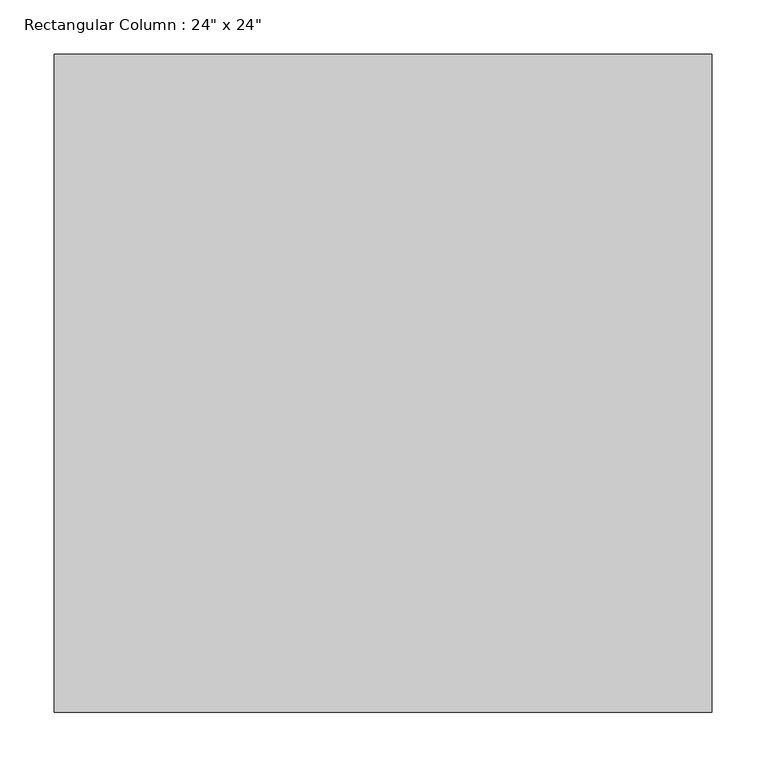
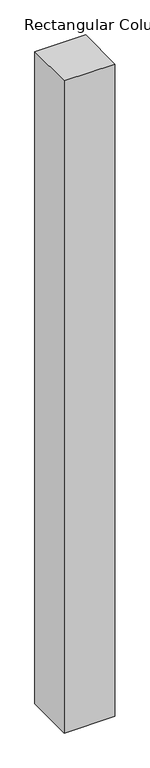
"""IFC4 building model written with IfcOpenShell, lengths in millimetres: column geometry."""

import ifcopenshell
import ifcopenshell.guid

model = None  # the IFC model being written
_history = None  # IfcOwnerHistory: only IFC2X3 demands one
_inside = {}  # id of a spatial element -> (the spatial element, [elements in it])
_under = {}  # id of a project, library or spatial element -> (it, [spatial elements below it])
_declared = {}  # id of a project -> (the project, [libraries it declares])
_typed = {}  # id of a type object -> (the type object, [elements of that type])
_made_of = {}  # id of a material, layer set ... -> (it, [elements and type objects made of it])


def new_model(schema):
    """Start an empty IFC model of exactly this schema.

    Asked for "IFC4X3", IfcOpenShell would pick the latest addendum, in which some entities
    have other attributes; the version numbers below select the first issue.
    IFC2X3 requires an IfcOwnerHistory on every rooted entity: one is made here for all.
    """
    global model, _history
    if schema == "IFC4X3":
        model = ifcopenshell.file(schema_version=(4, 3, 0, 0))
    else:
        model = ifcopenshell.file(schema=schema)
    _inside.clear()
    _under.clear()
    _declared.clear()
    _typed.clear()
    _made_of.clear()
    _history = None
    if model.schema == "IFC2X3":
        org = make("IfcOrganization", Name="unknown")
        user = make(
            "IfcPersonAndOrganization",
            ThePerson=make("IfcPerson", FamilyName="unknown"),
            TheOrganization=org,
        )
        app = make(
            "IfcApplication",
            ApplicationDeveloper=org,
            Version="unknown",
            ApplicationFullName="unknown",
            ApplicationIdentifier="unknown",
        )
        _history = make(
            "IfcOwnerHistory",
            OwningUser=user,
            OwningApplication=app,
            ChangeAction="ADDED",
            CreationDate=0,
        )
    return model


def make(cls, **values):
    """One entity of the class cls with the attributes given. An attribute that is None is left unset."""
    return model.create_entity(
        cls, **{name: value for name, value in values.items() if value is not None}
    )


def rooted(cls, **values):
    """An entity with a GlobalId (a new one), such as an element, a storey or a relation."""
    return make(cls, GlobalId=ifcopenshell.guid.new(), OwnerHistory=_history, **values)


def si_unit(unit_type, name, prefix=None):
    """IfcSIUnit, for example si_unit("LENGTHUNIT", "METRE", prefix="MILLI")."""
    return make("IfcSIUnit", UnitType=unit_type, Prefix=prefix, Name=name)


def assignment(units):
    """IfcUnitAssignment: the units of a project."""
    return None if units is None else make("IfcUnitAssignment", Units=units)


def point(xyz):
    """IfcCartesianPoint."""
    return None if xyz is None else make("IfcCartesianPoint", Coordinates=xyz)


def direction(xyz):
    """IfcDirection."""
    return None if xyz is None else make("IfcDirection", DirectionRatios=xyz)


def frame(location, z_axis=None, x_axis=None):
    """IfcAxis2Placement3D, a coordinate frame: its origin and axes. An axis left out is left unset."""
    return make(
        "IfcAxis2Placement3D",
        Location=point(location),
        Axis=direction(z_axis),
        RefDirection=direction(x_axis),
    )


def origin():
    """The frame at (0, 0, 0) with its axes left unset."""
    return frame((0.0, 0.0, 0.0))


def origin_with_axes():
    """The frame at (0, 0, 0) with the z axis (0, 0, 1) and the x axis (1, 0, 0) written out."""
    return frame((0.0, 0.0, 0.0), z_axis=(0.0, 0.0, 1.0), x_axis=(1.0, 0.0, 0.0))


def place(relative_to, where):
    """IfcLocalPlacement: puts the frame where relative to a parent placement (None: the world)."""
    return make(
        "IfcLocalPlacement", PlacementRelTo=relative_to, RelativePlacement=where
    )


def context(
    kind, dimensions, precision=None, world=None, true_north=None, identifier=None
):
    """IfcGeometricRepresentationContext, for example the 3D "Model" context."""
    return make(
        "IfcGeometricRepresentationContext",
        ContextIdentifier=identifier,
        ContextType=kind,
        CoordinateSpaceDimension=dimensions,
        Precision=precision,
        WorldCoordinateSystem=world,
        TrueNorth=true_north,
    )


def project(units=None, contexts=None):
    """IfcProject with its units and contexts."""
    return rooted(
        "IfcProject",
        Name="project",
        RepresentationContexts=contexts,
        UnitsInContext=assignment(units),
    )


def spatial(cls, under=None, at=None, **own):
    """A site, building, storey or space (cls), placed at a placement, below another one or the project."""
    s = rooted(cls, ObjectPlacement=at, **own)
    if under is not None:
        _under.setdefault(under.id(), (under, []))[1].append(s)
    return s


def polyline(points):
    """IfcPolyline through the points."""
    return make("IfcPolyline", Points=[point(p) for p in points])


def outline(outer, holes=None, kind="AREA"):
    """IfcArbitraryClosedProfileDef: a profile drawn as a closed curve; with holes, ...WithVoids."""
    if holes is None:
        return make("IfcArbitraryClosedProfileDef", ProfileType=kind, OuterCurve=outer)
    return make(
        "IfcArbitraryProfileDefWithVoids",
        ProfileType=kind,
        OuterCurve=outer,
        InnerCurves=holes,
    )


def extrude(swept, where, along, depth):
    """IfcExtrudedAreaSolid: the profile swept, set in the frame where, extruded along a direction by depth."""
    return make(
        "IfcExtrudedAreaSolid",
        SweptArea=swept,
        Position=where,
        ExtrudedDirection=direction(along),
        Depth=depth,
    )


def shape(context_of_items, identifier, shape_type, items):
    """IfcShapeRepresentation: the items that make up one representation, for example the "Body"."""
    return make(
        "IfcShapeRepresentation",
        ContextOfItems=context_of_items,
        RepresentationIdentifier=identifier,
        RepresentationType=shape_type,
        Items=items,
    )


def source(mapping_origin, context_of_items, identifier, shape_type, items):
    """IfcRepresentationMap: a shape defined once, which mapped items show again and again."""
    return make(
        "IfcRepresentationMap",
        MappingOrigin=mapping_origin,
        MappedRepresentation=shape(context_of_items, identifier, shape_type, items),
    )


def transform(
    local_origin,
    x_axis=None,
    y_axis=None,
    z_axis=None,
    scale=None,
    scale2=None,
    scale3=None,
    uniform=True,
):
    """IfcCartesianTransformationOperator3D, or its non-uniform kind. x_axis, y_axis, z_axis: its Axis1, 2, 3."""
    if uniform:
        return make(
            "IfcCartesianTransformationOperator3D",
            Axis1=direction(x_axis),
            Axis2=direction(y_axis),
            LocalOrigin=point(local_origin),
            Scale=scale,
            Axis3=direction(z_axis),
        )
    return make(
        "IfcCartesianTransformationOperator3DnonUniform",
        Axis1=direction(x_axis),
        Axis2=direction(y_axis),
        LocalOrigin=point(local_origin),
        Scale=scale,
        Axis3=direction(z_axis),
        Scale2=scale2,
        Scale3=scale3,
    )


def mapped(mapping_source, mapping_target):
    """IfcMappedItem: shows the shape of a source again, moved by a transform."""
    return make(
        "IfcMappedItem", MappingSource=mapping_source, MappingTarget=mapping_target
    )


def made_of(thing, what):
    """Note that an element or type object is made of a material, layer set ...; save() writes the relation."""
    if what is not None:
        _made_of.setdefault(what.id(), (what, []))[1].append(thing)
    return thing


def element(
    cls,
    number,
    at=None,
    inside=None,
    cuts=None,
    type_object=None,
    material=None,
    context=None,
    identifier="Body",
    shape_type=None,
    held_by="IfcProductDefinitionShape",
    body=None,
    shapes=None,
    **own,
):
    """One element of the class cls, such as IfcWall. Its Tag is "e" and its number.

    at: its placement. inside: the storey or other place that contains it. cuts: it is an
    opening in that element (IfcRelVoidsElement). A single representation is given by context,
    identifier, shape_type and body (its items); several are given by shapes. held_by: the class
    of the entity that holds the representations. save() writes the other relations.
    """
    e = rooted(cls, Tag="e%d" % number, ObjectPlacement=at, **own)
    if body is not None:
        shapes = [shape(context, identifier, shape_type, body)]
    if shapes is not None:
        e.Representation = make(held_by, Representations=shapes)
    if inside is not None:
        _inside.setdefault(inside.id(), (inside, []))[1].append(e)
    if cuts is not None:
        rooted(
            "IfcRelVoidsElement", RelatingBuildingElement=cuts, RelatedOpeningElement=e
        )
    if type_object is not None:
        _typed.setdefault(type_object.id(), (type_object, []))[1].append(e)
    return made_of(e, material)


def aggregate(whole, parts):
    """IfcRelAggregates: a whole, such as a stair, and the parts it consists of."""
    return rooted("IfcRelAggregates", RelatingObject=whole, RelatedObjects=parts)


def save(model, path):
    """Write the relations noted so far, then the file.

    IfcRelAggregates (storeys below a building ...), IfcRelContainedInSpatialStructure (elements
    in a storey), IfcRelDefinesByType, IfcRelAssociatesMaterial and IfcRelDeclares: one each for
    every whole, place, type object, material and project.
    """
    for whole, parts in _under.values():
        aggregate(whole, parts)
    for where, things in _inside.values():
        rooted(
            "IfcRelContainedInSpatialStructure",
            RelatedElements=things,
            RelatingStructure=where,
        )
    for kind, things in _typed.values():
        rooted("IfcRelDefinesByType", RelatedObjects=things, RelatingType=kind)
    for what, things in _made_of.values():
        rooted("IfcRelAssociatesMaterial", RelatedObjects=things, RelatingMaterial=what)
    for by, libraries in _declared.values():
        rooted("IfcRelDeclares", RelatingContext=by, RelatedDefinitions=libraries)
    model.write(path)


def column_c64340cb(model_context):
    return source(origin(), model_context, "Body", "SweptSolid", [
        extrude(outline(polyline([(304.8, 304.8), (304.8, -304.8), (-304.8, -304.8), (-304.8, 304.8), (304.8, 304.8)])), origin_with_axes(), (0.0, 0.0, 1.0), 8280.4),
    ])


if __name__ == "__main__":
    model = new_model("IFC4")
    model_context = context("Model", 3, world=origin())
    ifc_project = project(units=[si_unit("LENGTHUNIT", "METRE", prefix="MILLI")], contexts=[model_context])
    site = spatial("IfcSite", under=ifc_project)
    building = spatial("IfcBuilding", under=site)
    placement = place(None, origin())
    column_shape = column_c64340cb(model_context)
    element("IfcColumn", 1, ObjectType="Rectangular Column : 24\" x 24\"", at=placement, inside=building, context=model_context, shape_type="MappedRepresentation", body=[
        mapped(column_shape, transform((0.0, 0.0, 0.0), x_axis=(1.0, 0.0, 0.0), y_axis=(0.0, 1.0, 0.0), z_axis=(0.0, 0.0, 1.0))),
    ])
    save(model, "model.ifc")
